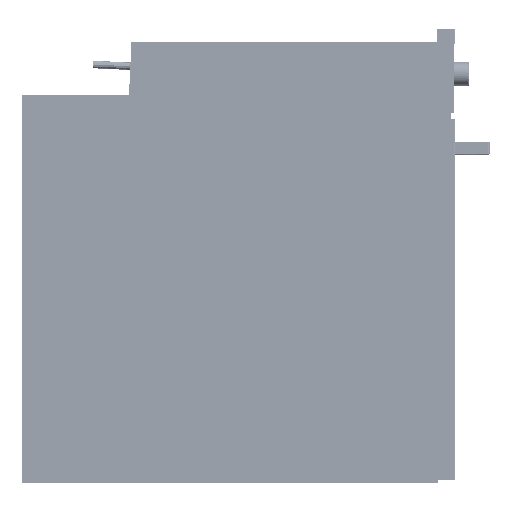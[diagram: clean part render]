
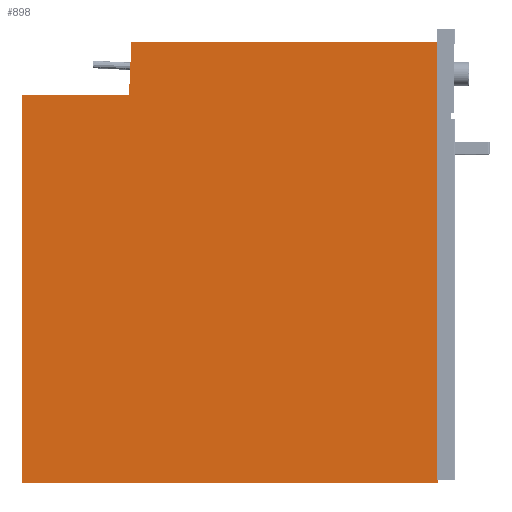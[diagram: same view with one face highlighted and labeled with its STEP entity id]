
A CAD part, front view. The second image highlights one B-rep face of the part: STEP entity #898.
In plain terms, the highlighted free-form (B-spline) face has degree [1, 1] with [2, 2] control points.
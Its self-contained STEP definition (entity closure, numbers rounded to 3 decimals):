
#898=ADVANCED_FACE('',(#1152),#3229,.T.);
#1152=FACE_OUTER_BOUND('',#1408,.T.);
#1408=EDGE_LOOP('',(#1848,#1849,#1850,#1851,#1852,#1853));
#1848=ORIENTED_EDGE('',*,*,#2566,.T.);
#1849=ORIENTED_EDGE('',*,*,#2569,.T.);
#1850=ORIENTED_EDGE('',*,*,#2580,.T.);
#1851=ORIENTED_EDGE('',*,*,#2583,.T.);
#1852=ORIENTED_EDGE('',*,*,#2585,.T.);
#1853=ORIENTED_EDGE('',*,*,#2562,.T.);
#2562=EDGE_CURVE('',#2958,#2957,#3351,.T.);
#2566=EDGE_CURVE('',#2957,#2960,#3355,.T.);
#2569=EDGE_CURVE('',#2960,#2962,#3358,.T.);
#2580=EDGE_CURVE('',#2962,#2972,#3369,.T.);
#2583=EDGE_CURVE('',#2972,#2974,#3372,.T.);
#2585=EDGE_CURVE('',#2974,#2958,#3374,.T.);
#2957=VERTEX_POINT('',#86510);
#2958=VERTEX_POINT('',#86511);
#2960=VERTEX_POINT('',#86513);
#2962=VERTEX_POINT('',#86515);
#2972=VERTEX_POINT('',#86525);
#2974=VERTEX_POINT('',#86527);
#3229=B_SPLINE_SURFACE_WITH_KNOTS('',1,1,((#86464,#86465),(#86466,#86467)),
.UNSPECIFIED.,.F.,.F.,.F.,(2,2),(2,2),(0.283,0.629),
(0.311,0.637),.UNSPECIFIED.);
#3351=B_SPLINE_CURVE_WITH_KNOTS('',1,(#86344,#86345),.UNSPECIFIED.,.F.,.F.,
(2,2),(0.,1.),.UNSPECIFIED.);
#3355=B_SPLINE_CURVE_WITH_KNOTS('',1,(#86352,#86353),.UNSPECIFIED.,.F.,.F.,
(2,2),(0.,1.),.UNSPECIFIED.);
#3358=B_SPLINE_CURVE_WITH_KNOTS('',1,(#86358,#86359),.UNSPECIFIED.,.F.,.F.,
(2,2),(0.,1.),.UNSPECIFIED.);
#3369=B_SPLINE_CURVE_WITH_KNOTS('',1,(#86388,#86389),.UNSPECIFIED.,.F.,.F.,
(2,2),(0.,1.),.UNSPECIFIED.);
#3372=B_SPLINE_CURVE_WITH_KNOTS('',1,(#86394,#86395),.UNSPECIFIED.,.F.,.F.,
(2,2),(0.,1.),.UNSPECIFIED.);
#3374=B_SPLINE_CURVE_WITH_KNOTS('',1,(#86398,#86399),.UNSPECIFIED.,.F.,.F.,
(2,2),(0.,1.),.UNSPECIFIED.);
#86344=CARTESIAN_POINT('',(-552.277,-277.017,510.439));
#86345=CARTESIAN_POINT('',(-552.277,-277.017,-0.011));
#86352=CARTESIAN_POINT('',(-552.277,-277.017,-0.011));
#86353=CARTESIAN_POINT('',(-6.287,-277.017,-0.011));
#86358=CARTESIAN_POINT('',(-6.287,-277.017,-0.011));
#86359=CARTESIAN_POINT('',(-6.287,-277.017,580.098));
#86388=CARTESIAN_POINT('',(-6.287,-277.017,580.098));
#86389=CARTESIAN_POINT('',(-408.402,-277.017,580.098));
#86394=CARTESIAN_POINT('',(-408.402,-277.017,580.098));
#86395=CARTESIAN_POINT('',(-411.706,-277.017,510.443));
#86398=CARTESIAN_POINT('',(-411.706,-277.017,510.443));
#86399=CARTESIAN_POINT('',(-552.277,-277.017,510.439));
#86464=CARTESIAN_POINT('',(-6.287,-277.017,-0.011));
#86465=CARTESIAN_POINT('',(-552.277,-277.017,-0.011));
#86466=CARTESIAN_POINT('',(-6.287,-277.017,580.098));
#86467=CARTESIAN_POINT('',(-552.277,-277.017,580.098));
#86510=CARTESIAN_POINT('',(-552.277,-277.017,-0.011));
#86511=CARTESIAN_POINT('',(-552.277,-277.017,510.439));
#86513=CARTESIAN_POINT('',(-6.287,-277.017,-0.011));
#86515=CARTESIAN_POINT('',(-6.287,-277.017,580.098));
#86525=CARTESIAN_POINT('',(-408.402,-277.017,580.098));
#86527=CARTESIAN_POINT('',(-411.706,-277.017,510.443));
